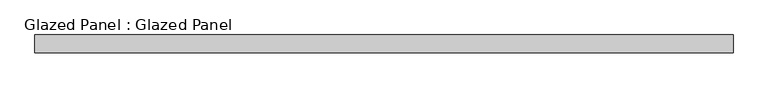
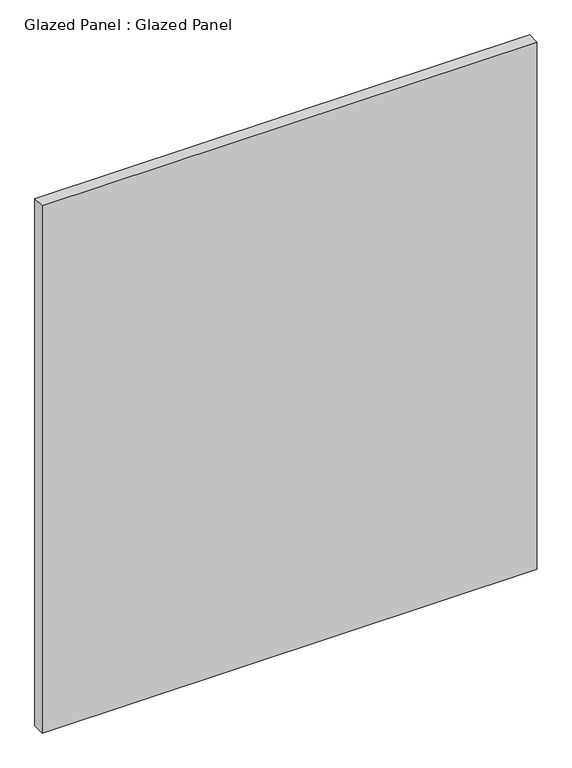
"""IFC4 building model written with IfcOpenShell, lengths in millimetres: plate geometry, Glazed Panel : Glazed Panel."""

from ifc_helpers import new_model, si_unit, origin, origin_with_axes, place, context, project, spatial, polyline, outline, extrude, source, transform, mapped, element, save


def glazed_panel_glazed_panel_fae6096d(model_context):
    return source(origin(), model_context, "Body", "SweptSolid", [
        extrude(outline(polyline([(498.7728003, 38.1), (-498.7728003, 38.1), (-498.7728003, 63.5), (498.7728003, 63.5), (498.7728003, 38.1)])), origin_with_axes(), (0.0, 0.0, 1.0), 1123.95),
    ])


if __name__ == "__main__":
    model = new_model("IFC4")
    model_context = context("Model", 3, world=origin())
    ifc_project = project(units=[si_unit("LENGTHUNIT", "METRE", prefix="MILLI")], contexts=[model_context])
    site = spatial("IfcSite", under=ifc_project)
    building = spatial("IfcBuilding", under=site)
    placement = place(None, origin())
    glazed_panel_glazed_panel_shape = glazed_panel_glazed_panel_fae6096d(model_context)
    element("IfcPlate", 1, ObjectType="Glazed Panel : Glazed Panel", at=placement, inside=building, context=model_context, shape_type="MappedRepresentation", body=[
        mapped(glazed_panel_glazed_panel_shape, transform((0.0, 0.0, 0.0), x_axis=(1.0, 0.0, 0.0), y_axis=(0.0, 1.0, 0.0), z_axis=(0.0, 0.0, 1.0))),
    ])
    save(model, "model.ifc")
